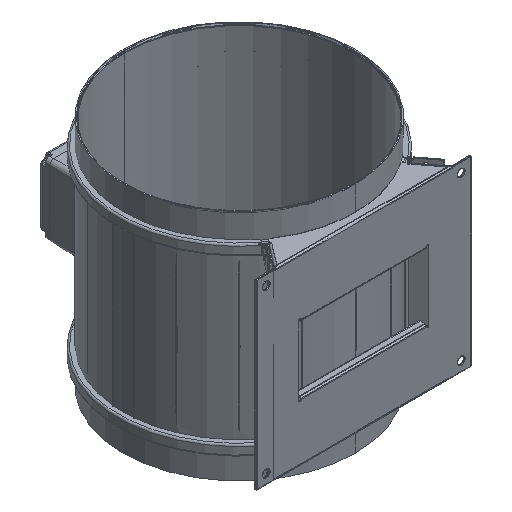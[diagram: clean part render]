
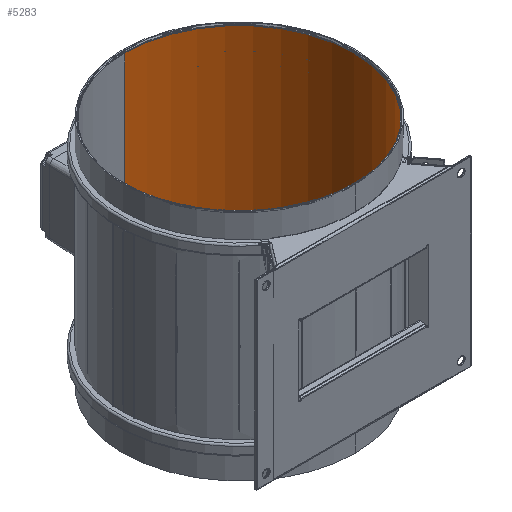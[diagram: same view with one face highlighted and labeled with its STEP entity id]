
A CAD part, isometric view. The second image highlights one B-rep face of the part: STEP entity #5283.
In plain terms, the highlighted cylindrical face has radius 137.16 mm (diameter 274.32 mm), a partial arc.
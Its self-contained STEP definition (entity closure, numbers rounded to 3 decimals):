
#2205 = VERTEX_POINT ( 'NONE', #5876 ) ;
#3644 = DIRECTION ( 'NONE',  ( 0., -1., 0. ) ) ;
#3649 = DIRECTION ( 'NONE',  ( 0., 0., 1. ) ) ;
#3656 = CARTESIAN_POINT ( 'NONE',  ( 0., 0., 0. ) ) ;
#5283 = ADVANCED_FACE ( 'NONE', ( #37247 ), #37249, .F. ) ;
#5876 = CARTESIAN_POINT ( 'NONE',  ( 0., 137.16, -254.143 ) ) ;
#7539 = DIRECTION ( 'NONE',  ( 0., -1., 0. ) ) ;
#7560 = DIRECTION ( 'NONE',  ( 0., 0., -1. ) ) ;
#7590 = CARTESIAN_POINT ( 'NONE',  ( 0., 0., -355.402 ) ) ;
#7810 = CARTESIAN_POINT ( 'NONE',  ( 7.5, 136.955, -253.143 ) ) ;
#7849 = CARTESIAN_POINT ( 'NONE',  ( 7.5, 136.955, -253.407 ) ) ;
#7850 = CARTESIAN_POINT ( 'NONE',  ( 7.391, 136.961, -253.666 ) ) ;
#7856 = CARTESIAN_POINT ( 'NONE',  ( 7.004, 136.981, -254.017 ) ) ;
#7858 = CARTESIAN_POINT ( 'NONE',  ( 6.5, 137.006, -254.143 ) ) ;
#7860 = CARTESIAN_POINT ( 'NONE',  ( 6.632, 137., -254.143 ) ) ;
#7865 = CARTESIAN_POINT ( 'NONE',  ( 6.761, 136.993, -254.117 ) ) ;
#7912 = CARTESIAN_POINT ( 'NONE',  ( 7.114, 136.975, -253.943 ) ) ;
#8210 = EDGE_CURVE ( 'NONE', #17345, #17336, #10480, .T. ) ;
#8266 = EDGE_CURVE ( 'NONE', #17377, #17505, #24917, .T. ) ;
#9036 = CARTESIAN_POINT ( 'NONE',  ( 7.5, 136.955, -643.023 ) ) ;
#9145 = DIRECTION ( 'NONE',  ( 0., 0., 1. ) ) ;
#10480 = CIRCLE ( 'NONE', #15948, 137.16 ) ;
#11343 = LINE ( 'NONE', #9036, #11346 ) ;
#11346 = VECTOR ( 'NONE', #9145, 1000. ) ;
#13408 = CARTESIAN_POINT ( 'NONE',  ( 0., 137.16, 0. ) ) ;
#13409 = DIRECTION ( 'NONE',  ( 0., 0., 1. ) ) ;
#15240 = EDGE_CURVE ( 'NONE', #17505, #34160, #11343, .T. ) ;
#15948 = AXIS2_PLACEMENT_3D ( 'NONE', #7590, #7560, #7539 ) ;
#16694 = EDGE_CURVE ( 'NONE', #34160, #26420, #41251, .T. ) ;
#17336 = VERTEX_POINT ( 'NONE', #29280 ) ;
#17345 = VERTEX_POINT ( 'NONE', #29289 ) ;
#17377 = VERTEX_POINT ( 'NONE', #29321 ) ;
#17505 = VERTEX_POINT ( 'NONE', #29449 ) ;
#17519 = VERTEX_POINT ( 'NONE', #29463 ) ;
#18408 = LINE ( 'NONE', #13408, #18410 ) ;
#18409 = LINE ( 'NONE', #25410, #18413 ) ;
#18410 = VECTOR ( 'NONE', #13409, 1000. ) ;
#18412 = LINE ( 'NONE', #25414, #18415 ) ;
#18413 = VECTOR ( 'NONE', #25407, 1000. ) ;
#18415 = VECTOR ( 'NONE', #25415, 1000. ) ;
#18786 = CIRCLE ( 'NONE', #23362, 137.16 ) ;
#18970 = CIRCLE ( 'NONE', #23618, 137.16 ) ;
#20553 = CARTESIAN_POINT ( 'NONE',  ( 0.495, 137.16, -234.143 ) ) ;
#20554 = CARTESIAN_POINT ( 'NONE',  ( 0., 137.16, -234.143 ) ) ;
#20556 = CARTESIAN_POINT ( 'NONE',  ( 1.712, 137.15, -234.337 ) ) ;
#20557 = CARTESIAN_POINT ( 'NONE',  ( 1.952, 137.146, -234.397 ) ) ;
#20559 = CARTESIAN_POINT ( 'NONE',  ( 0.985, 137.157, -234.192 ) ) ;
#20561 = CARTESIAN_POINT ( 'NONE',  ( 2.881, 137.13, -234.706 ) ) ;
#20563 = CARTESIAN_POINT ( 'NONE',  ( 7.5, 136.955, -241.643 ) ) ;
#20757 = CARTESIAN_POINT ( 'NONE',  ( 3.968, 137.103, -235.274 ) ) ;
#20773 = CARTESIAN_POINT ( 'NONE',  ( 3.755, 137.109, -235.146 ) ) ;
#20776 = CARTESIAN_POINT ( 'NONE',  ( 7.309, 136.965, -239.942 ) ) ;
#20786 = CARTESIAN_POINT ( 'NONE',  ( 6.741, 136.994, -238.319 ) ) ;
#20800 = CARTESIAN_POINT ( 'NONE',  ( 7.023, 136.98, -239. ) ) ;
#20823 = CARTESIAN_POINT ( 'NONE',  ( 4.96, 137.071, -235.996 ) ) ;
#20829 = CARTESIAN_POINT ( 'NONE',  ( 4.582, 137.084, -235.685 ) ) ;
#20833 = CARTESIAN_POINT ( 'NONE',  ( 7.5, 136.955, -241.148 ) ) ;
#20836 = CARTESIAN_POINT ( 'NONE',  ( 7.249, 136.968, -239.705 ) ) ;
#20840 = CARTESIAN_POINT ( 'NONE',  ( 7.451, 136.957, -240.661 ) ) ;
#20843 = CARTESIAN_POINT ( 'NONE',  ( 5.967, 137.03, -237.073 ) ) ;
#20846 = CARTESIAN_POINT ( 'NONE',  ( 5.651, 137.044, -236.687 ) ) ;
#20849 = CARTESIAN_POINT ( 'NONE',  ( 6.511, 137.006, -237.888 ) ) ;
#20870 = CARTESIAN_POINT ( 'NONE',  ( 7.107, 136.976, -239.234 ) ) ;
#20896 = CARTESIAN_POINT ( 'NONE',  ( 2.421, 137.139, -234.54 ) ) ;
#20898 = CARTESIAN_POINT ( 'NONE',  ( 3.323, 137.12, -234.915 ) ) ;
#21199 = CARTESIAN_POINT ( 'NONE',  ( 0., -137.16, -78.423 ) ) ;
#21332 = CARTESIAN_POINT ( 'NONE',  ( 7.5, 136.955, -241.643 ) ) ;
#23106 = EDGE_LOOP ( 'NONE', ( #40990, #41033, #41084, #40976, #40970, #41029, #40931, #40948, #40983 ) ) ;
#23362 = AXIS2_PLACEMENT_3D ( 'NONE', #26294, #26295, #26296 ) ;
#23618 = AXIS2_PLACEMENT_3D ( 'NONE', #28001, #28002, #28003 ) ;
#24917 = B_SPLINE_CURVE_WITH_KNOTS ( 'NONE', 3,
 ( #7858, #7860, #7865, #7856, #7912, #7850, #7849, #7810 ),
 .UNSPECIFIED., .F., .F.,
 ( 4, 2, 2, 4 ),
 ( 0., 0., 0.001, 0.002 ),
 .UNSPECIFIED. ) ;
#25329 = AXIS2_PLACEMENT_3D ( 'NONE', #3656, #3649, #3644 ) ;
#25407 = DIRECTION ( 'NONE',  ( 0., 0., 1. ) ) ;
#25410 = CARTESIAN_POINT ( 'NONE',  ( 0., -137.16, 0. ) ) ;
#25414 = CARTESIAN_POINT ( 'NONE',  ( 0., 137.16, 0. ) ) ;
#25415 = DIRECTION ( 'NONE',  ( 0., 0., 1. ) ) ;
#26294 = CARTESIAN_POINT ( 'NONE',  ( 0., 0., -78.423 ) ) ;
#26295 = DIRECTION ( 'NONE',  ( 0., 0., -1. ) ) ;
#26296 = DIRECTION ( 'NONE',  ( 1., 0., 0. ) ) ;
#26420 = VERTEX_POINT ( 'NONE', #29538 ) ;
#28001 = CARTESIAN_POINT ( 'NONE',  ( 0., 0., -254.143 ) ) ;
#28002 = DIRECTION ( 'NONE',  ( 0., 0., -1. ) ) ;
#28003 = DIRECTION ( 'NONE',  ( -1., 0., 0. ) ) ;
#29280 = CARTESIAN_POINT ( 'NONE',  ( 0., -137.16, -355.402 ) ) ;
#29289 = CARTESIAN_POINT ( 'NONE',  ( 0., 137.16, -355.402 ) ) ;
#29321 = CARTESIAN_POINT ( 'NONE',  ( 6.5, 137.006, -254.143 ) ) ;
#29449 = CARTESIAN_POINT ( 'NONE',  ( 7.5, 136.955, -253.143 ) ) ;
#29463 = CARTESIAN_POINT ( 'NONE',  ( 0., 137.16, -78.423 ) ) ;
#29538 = CARTESIAN_POINT ( 'NONE',  ( 0., 137.16, -234.143 ) ) ;
#34092 = VERTEX_POINT ( 'NONE', #21199 ) ;
#34160 = VERTEX_POINT ( 'NONE', #21332 ) ;
#37247 = FACE_OUTER_BOUND ( 'NONE', #23106, .T. ) ;
#37249 = CYLINDRICAL_SURFACE ( 'NONE', #25329, 137.16 ) ;
#38663 = EDGE_CURVE ( 'NONE', #26420, #17519, #18408, .T. ) ;
#38673 = EDGE_CURVE ( 'NONE', #17336, #34092, #18409, .T. ) ;
#38676 = EDGE_CURVE ( 'NONE', #17345, #2205, #18412, .T. ) ;
#39437 = EDGE_CURVE ( 'NONE', #17519, #34092, #18786, .T. ) ;
#40215 = EDGE_CURVE ( 'NONE', #2205, #17377, #18970, .T. ) ;
#40931 = ORIENTED_EDGE ( 'NONE', *, *, #15240, .F. ) ;
#40948 = ORIENTED_EDGE ( 'NONE', *, *, #8266, .F. ) ;
#40970 = ORIENTED_EDGE ( 'NONE', *, *, #38663, .F. ) ;
#40976 = ORIENTED_EDGE ( 'NONE', *, *, #39437, .F. ) ;
#40983 = ORIENTED_EDGE ( 'NONE', *, *, #40215, .F. ) ;
#40990 = ORIENTED_EDGE ( 'NONE', *, *, #38676, .F. ) ;
#41029 = ORIENTED_EDGE ( 'NONE', *, *, #16694, .F. ) ;
#41033 = ORIENTED_EDGE ( 'NONE', *, *, #8210, .T. ) ;
#41084 = ORIENTED_EDGE ( 'NONE', *, *, #38673, .T. ) ;
#41251 = B_SPLINE_CURVE_WITH_KNOTS ( 'NONE', 3,
 ( #20563, #20833, #20840, #20776, #20836, #20870, #20800, #20786, #20849, #20843, #20846, #20823, #20829, #20757, #20773, #20898, #20561, #20896, #20557, #20556, #20559, #20553, #20554 ),
 .UNSPECIFIED., .F., .F.,
 ( 4, 2, 2, 2, 2, 2, 2, 2, 1, 2, 2, 4 ),
 ( 0., 0.001, 0.002, 0.003, 0.004, 0.006, 0.007, 0.008, 0.009, 0.01, 0.01, 0.012 ),
 .UNSPECIFIED. ) ;
